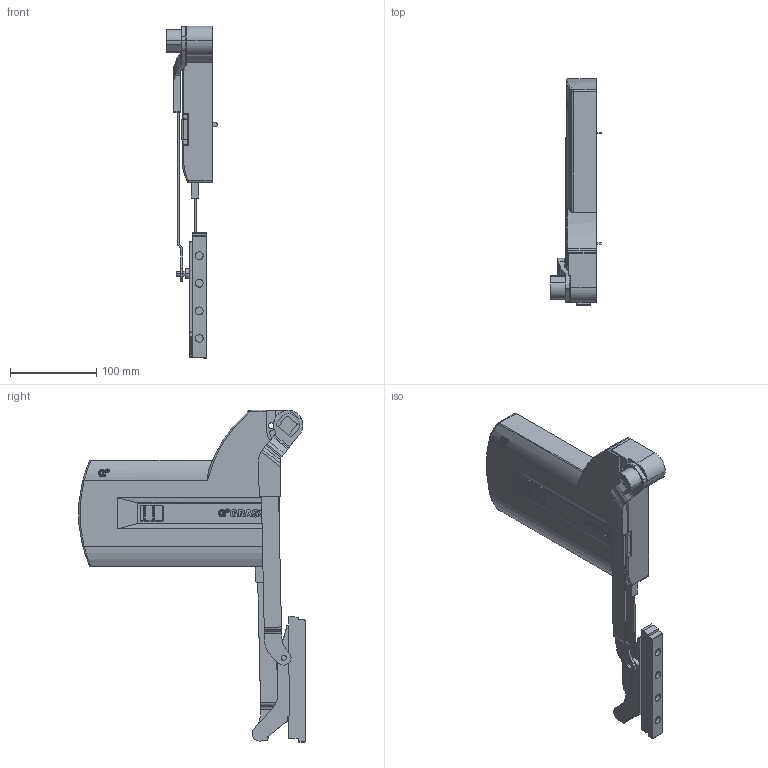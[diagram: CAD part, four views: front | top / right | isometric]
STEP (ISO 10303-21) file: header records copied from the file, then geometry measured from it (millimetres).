
FILE_DESCRIPTION (( 'STEP AP203' ), '1' );
FILE_NAME ('Kinvaro_L-80_Typ5_rechts_D2806015125~b.step', '2012-05-04T06:40:09', ( 'admin' ), ( 'Hewlett-Packard Company' ), 'SwSTEP 2.0', 'SolidWorks 2011', '' );
FILE_SCHEMA (( 'CONFIG_CONTROL_DESIGN' ));
Length unit declared in the file: millimetre
Products named in the file (1): Kinvaro_L-80_Typ5_rechts_D2806015125~b
Bounding box: 59 x 262.07 x 384.93 mm (x, y, z)
Volume: 1205682.9 mm3; surface area: 139944.2 mm2
Topology: 1 solids, 1 shells, 602 faces, 1664 edges, 1085 vertices
Faces by surface type: cylinder 321, plane 239, bspline 22, torus 18, sphere 2
Entity records: 20208 total; most frequent: CARTESIAN_POINT 4826, ORIENTED_EDGE 3322, DIRECTION 3161, EDGE_CURVE 1661, AXIS2_PLACEMENT_3D 1137, VERTEX_POINT 1085, LINE 887, VECTOR 887
